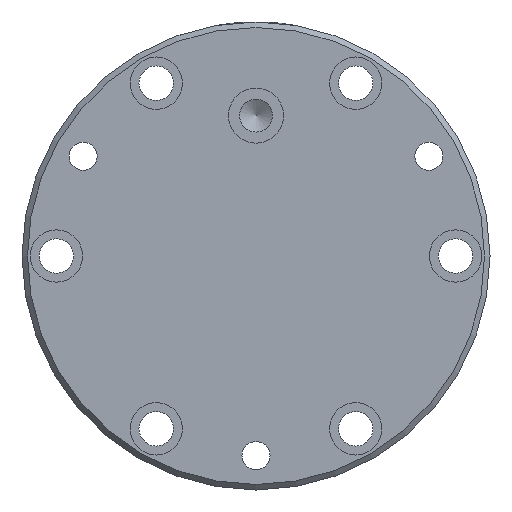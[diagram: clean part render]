
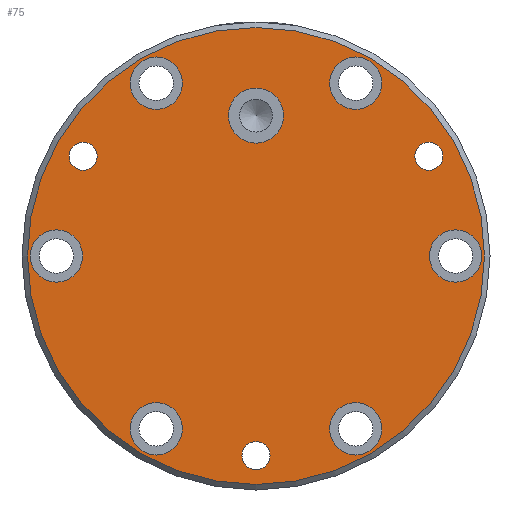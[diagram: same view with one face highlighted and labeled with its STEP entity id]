
A CAD part, left-side view. The second image highlights one B-rep face of the part: STEP entity #75.
In plain terms, the highlighted planar face has unit normal (-1, 0, 0).
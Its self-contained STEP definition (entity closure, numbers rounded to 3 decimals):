
#75 = ADVANCED_FACE( '', ( #119, #120, #121, #122, #123, #124, #125, #126, #127, #128, #129 ), #130, .T. );
#119 = FACE_BOUND( '', #268, .T. );
#120 = FACE_BOUND( '', #269, .T. );
#121 = FACE_BOUND( '', #270, .T. );
#122 = FACE_BOUND( '', #271, .T. );
#123 = FACE_BOUND( '', #272, .T. );
#124 = FACE_BOUND( '', #273, .T. );
#125 = FACE_BOUND( '', #274, .T. );
#126 = FACE_BOUND( '', #275, .T. );
#127 = FACE_BOUND( '', #276, .T. );
#128 = FACE_OUTER_BOUND( '', #277, .T. );
#129 = FACE_BOUND( '', #278, .T. );
#130 = PLANE( '', #279 );
#268 = EDGE_LOOP( '', ( #417 ) );
#269 = EDGE_LOOP( '', ( #418 ) );
#270 = EDGE_LOOP( '', ( #419 ) );
#271 = EDGE_LOOP( '', ( #420 ) );
#272 = EDGE_LOOP( '', ( #421 ) );
#273 = EDGE_LOOP( '', ( #422 ) );
#274 = EDGE_LOOP( '', ( #423 ) );
#275 = EDGE_LOOP( '', ( #424 ) );
#276 = EDGE_LOOP( '', ( #425 ) );
#277 = EDGE_LOOP( '', ( #426 ) );
#278 = EDGE_LOOP( '', ( #427 ) );
#279 = AXIS2_PLACEMENT_3D( '', #428, #429, #430 );
#417 = ORIENTED_EDGE( '', *, *, #652, .F. );
#418 = ORIENTED_EDGE( '', *, *, #653, .F. );
#419 = ORIENTED_EDGE( '', *, *, #654, .F. );
#420 = ORIENTED_EDGE( '', *, *, #655, .T. );
#421 = ORIENTED_EDGE( '', *, *, #656, .T. );
#422 = ORIENTED_EDGE( '', *, *, #657, .T. );
#423 = ORIENTED_EDGE( '', *, *, #658, .T. );
#424 = ORIENTED_EDGE( '', *, *, #659, .T. );
#425 = ORIENTED_EDGE( '', *, *, #660, .T. );
#426 = ORIENTED_EDGE( '', *, *, #661, .T. );
#427 = ORIENTED_EDGE( '', *, *, #662, .T. );
#428 = CARTESIAN_POINT( '', ( 0., 0., 0. ) );
#429 = DIRECTION( '', ( -1., 0., 0. ) );
#430 = DIRECTION( '', ( 0., 0., 1. ) );
#652 = EDGE_CURVE( '', #706, #706, #707, .T. );
#653 = EDGE_CURVE( '', #708, #708, #709, .T. );
#654 = EDGE_CURVE( '', #710, #710, #711, .T. );
#655 = EDGE_CURVE( '', #712, #712, #713, .T. );
#656 = EDGE_CURVE( '', #714, #714, #715, .T. );
#657 = EDGE_CURVE( '', #716, #716, #717, .T. );
#658 = EDGE_CURVE( '', #718, #718, #719, .T. );
#659 = EDGE_CURVE( '', #720, #720, #721, .T. );
#660 = EDGE_CURVE( '', #722, #722, #723, .T. );
#661 = EDGE_CURVE( '', #724, #724, #725, .T. );
#662 = EDGE_CURVE( '', #726, #726, #727, .T. );
#706 = VERTEX_POINT( '', #810 );
#707 = CIRCLE( '', #811, 5.1 );
#708 = VERTEX_POINT( '', #812 );
#709 = CIRCLE( '', #813, 5.1 );
#710 = VERTEX_POINT( '', #814 );
#711 = CIRCLE( '', #815, 5.1 );
#712 = VERTEX_POINT( '', #816 );
#713 = CIRCLE( '', #817, 9.5 );
#714 = VERTEX_POINT( '', #818 );
#715 = CIRCLE( '', #819, 9.5 );
#716 = VERTEX_POINT( '', #820 );
#717 = CIRCLE( '', #821, 9.5 );
#718 = VERTEX_POINT( '', #822 );
#719 = CIRCLE( '', #823, 9.5 );
#720 = VERTEX_POINT( '', #824 );
#721 = CIRCLE( '', #825, 9.5 );
#722 = VERTEX_POINT( '', #826 );
#723 = CIRCLE( '', #827, 9.5 );
#724 = VERTEX_POINT( '', #828 );
#725 = CIRCLE( '', #829, 83. );
#726 = VERTEX_POINT( '', #830 );
#727 = CIRCLE( '', #831, 10. );
#810 = CARTESIAN_POINT( '', ( 0., -5.1, -72.5 ) );
#811 = AXIS2_PLACEMENT_3D( '', #1114, #1115, #1116 );
#812 = CARTESIAN_POINT( '', ( 0., -67.887, 36.25 ) );
#813 = AXIS2_PLACEMENT_3D( '', #1117, #1118, #1119 );
#814 = CARTESIAN_POINT( '', ( 0., 57.687, 36.25 ) );
#815 = AXIS2_PLACEMENT_3D( '', #1120, #1121, #1122 );
#816 = CARTESIAN_POINT( '', ( 0., 36.25, -53.287 ) );
#817 = AXIS2_PLACEMENT_3D( '', #1123, #1124, #1125 );
#818 = CARTESIAN_POINT( '', ( 0., -36.25, -53.287 ) );
#819 = AXIS2_PLACEMENT_3D( '', #1126, #1127, #1128 );
#820 = CARTESIAN_POINT( '', ( 0., -72.5, 9.5 ) );
#821 = AXIS2_PLACEMENT_3D( '', #1129, #1130, #1131 );
#822 = CARTESIAN_POINT( '', ( 0., -36.25, 72.287 ) );
#823 = AXIS2_PLACEMENT_3D( '', #1132, #1133, #1134 );
#824 = CARTESIAN_POINT( '', ( 0., 36.25, 72.287 ) );
#825 = AXIS2_PLACEMENT_3D( '', #1135, #1136, #1137 );
#826 = CARTESIAN_POINT( '', ( 0., 72.5, 9.5 ) );
#827 = AXIS2_PLACEMENT_3D( '', #1138, #1139, #1140 );
#828 = CARTESIAN_POINT( '', ( 0., 0., 83. ) );
#829 = AXIS2_PLACEMENT_3D( '', #1141, #1142, #1143 );
#830 = CARTESIAN_POINT( '', ( 0., -10., 51. ) );
#831 = AXIS2_PLACEMENT_3D( '', #1144, #1145, #1146 );
#1114 = CARTESIAN_POINT( '', ( 0., 0., -72.5 ) );
#1115 = DIRECTION( '', ( -1., 0., 0. ) );
#1116 = DIRECTION( '', ( 0., -1., 0. ) );
#1117 = CARTESIAN_POINT( '', ( 0., -62.787, 36.25 ) );
#1118 = DIRECTION( '', ( -1., 0., 0. ) );
#1119 = DIRECTION( '', ( 0., -1., 0. ) );
#1120 = CARTESIAN_POINT( '', ( 0., 62.787, 36.25 ) );
#1121 = DIRECTION( '', ( -1., 0., 0. ) );
#1122 = DIRECTION( '', ( 0., -1., 0. ) );
#1123 = CARTESIAN_POINT( '', ( 0., 36.25, -62.787 ) );
#1124 = DIRECTION( '', ( 1., 0., 0. ) );
#1125 = DIRECTION( '', ( 0., 0., 1. ) );
#1126 = CARTESIAN_POINT( '', ( 0., -36.25, -62.787 ) );
#1127 = DIRECTION( '', ( 1., 0., 0. ) );
#1128 = DIRECTION( '', ( 0., 0., 1. ) );
#1129 = CARTESIAN_POINT( '', ( 0., -72.5, 0. ) );
#1130 = DIRECTION( '', ( 1., 0., 0. ) );
#1131 = DIRECTION( '', ( 0., 0., 1. ) );
#1132 = CARTESIAN_POINT( '', ( 0., -36.25, 62.787 ) );
#1133 = DIRECTION( '', ( 1., 0., 0. ) );
#1134 = DIRECTION( '', ( 0., 0., 1. ) );
#1135 = CARTESIAN_POINT( '', ( 0., 36.25, 62.787 ) );
#1136 = DIRECTION( '', ( 1., 0., 0. ) );
#1137 = DIRECTION( '', ( 0., 0., 1. ) );
#1138 = CARTESIAN_POINT( '', ( 0., 72.5, 0. ) );
#1139 = DIRECTION( '', ( 1., 0., 0. ) );
#1140 = DIRECTION( '', ( 0., 0., 1. ) );
#1141 = CARTESIAN_POINT( '', ( 0., 0., 0. ) );
#1142 = DIRECTION( '', ( -1., 0., 0. ) );
#1143 = DIRECTION( '', ( 0., 0., 1. ) );
#1144 = CARTESIAN_POINT( '', ( 0., 0., 51. ) );
#1145 = DIRECTION( '', ( 1., 0., 0. ) );
#1146 = DIRECTION( '', ( 0., -1., 0. ) );
